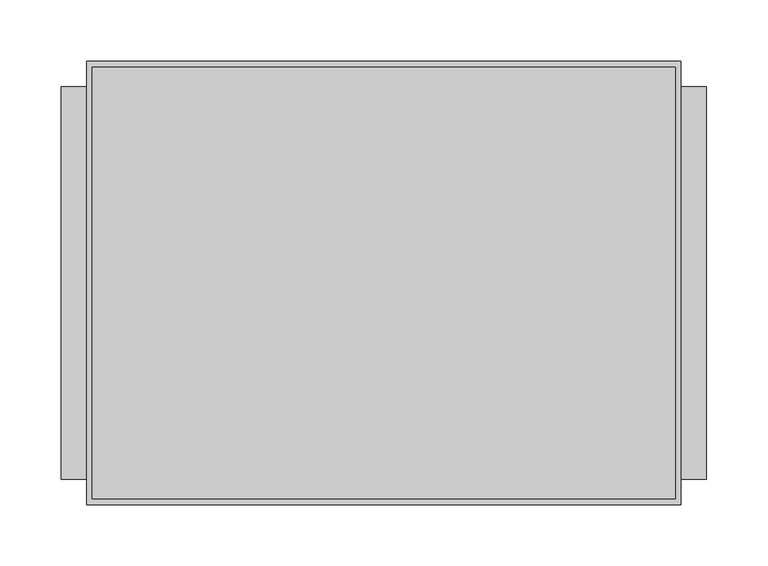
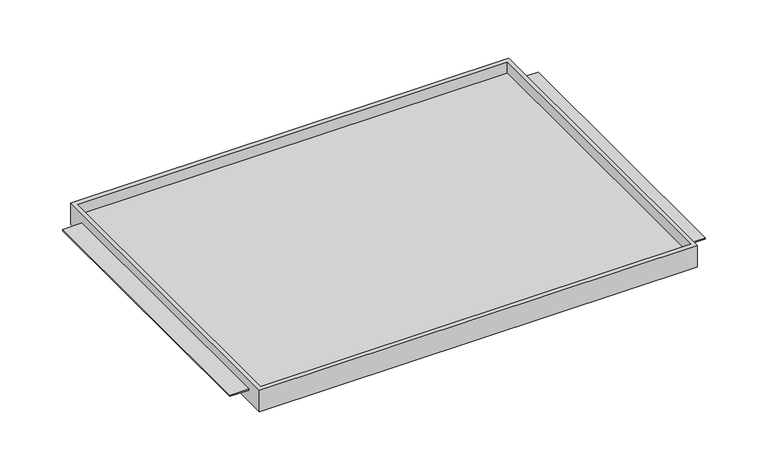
"""IFC4 building model written with IfcOpenShell, lengths in millimetres: furniture geometry."""

from ifc_helpers import new_model, si_unit, origin, place, context, project, spatial, faceted_brep, source, transform, mapped, element, save


def furniture_b82473b3(model_context):
    return source(origin(), model_context, "Body", "Brep", [
        faceted_brep([(-242.7689646, -180.975, 1314.45), (242.7689646, -180.975, 1314.45), (242.7689646, -180.975, 1339.85), (-242.7689646, -180.975, 1339.85), (-242.7689646, 180.975, 1314.45), (-242.7689646, 180.975, 1339.85), (242.7689646, 180.975, 1339.85), (242.7689646, 180.975, 1314.45), (242.7689646, -160.3374879, 1328.7502), (242.7689646, 160.3374879, 1328.7502), (242.7689646, 160.3374879, 1327.15), (242.7689646, -160.3374879, 1327.15), (238.125, -176.2125, 1339.85), (-238.125, -176.2125, 1339.85), (-238.125, 175.91278, 1339.85), (238.125, 175.91278, 1339.85), (-242.7689646, 160.3374879, 1328.7502), (-242.7689646, -160.3374879, 1328.7502), (-242.7689646, -160.3374879, 1327.15), (-242.7689646, 160.3374879, 1327.15), (-238.125, -176.2125, 1327.15), (238.125, -176.2125, 1327.15), (238.125, 175.91278, 1327.15), (-238.125, 175.91278, 1327.15), (-263.525, 160.3374879, 1328.7502), (-263.525, -160.3374879, 1328.7502), (263.525, -160.3374879, 1328.7502), (263.525, 160.3374879, 1328.7502), (-263.525, -160.3374879, 1327.15), (-263.525, 160.3374879, 1327.15), (263.525, -160.3374879, 1327.15), (263.525, 160.3374879, 1327.15)], [[[0, 1, 2, 3]], [[4, 5, 6, 7]], [[1, 0, 4, 7]], [[2, 1, 7, 6], [8, 9, 10, 11]], [[3, 2, 6, 5], [12, 13, 14, 15]], [[0, 3, 5, 4], [16, 17, 18, 19]], [[20, 21, 22, 23]], [[21, 20, 13, 12]], [[22, 21, 12, 15]], [[23, 22, 15, 14]], [[20, 23, 14, 13]], [[16, 24, 25, 17]], [[26, 27, 9, 8]], [[18, 28, 29, 19]], [[30, 11, 10, 31]], [[24, 16, 19, 29]], [[25, 24, 29, 28]], [[17, 25, 28, 18]], [[27, 26, 30, 31]], [[9, 27, 31, 10]], [[26, 8, 11, 30]]]),
    ])


if __name__ == "__main__":
    model = new_model("IFC4")
    model_context = context("Model", 3, world=origin())
    ifc_project = project(units=[si_unit("LENGTHUNIT", "METRE", prefix="MILLI")], contexts=[model_context])
    site = spatial("IfcSite", under=ifc_project)
    building = spatial("IfcBuilding", under=site)
    placement = place(None, origin())
    furniture_shape = furniture_b82473b3(model_context)
    element("IfcFurniture", 1, ObjectType="HermanMiller_CoStruc_CO203_CTrayShelf : 14\"D x 20\"W", at=placement, inside=building, context=model_context, shape_type="MappedRepresentation", body=[
        mapped(furniture_shape, transform((0.0, 0.0, 0.0), x_axis=(1.0, 0.0, 0.0), y_axis=(0.0, 1.0, 0.0), z_axis=(0.0, 0.0, 1.0))),
    ])
    save(model, "model.ifc")
